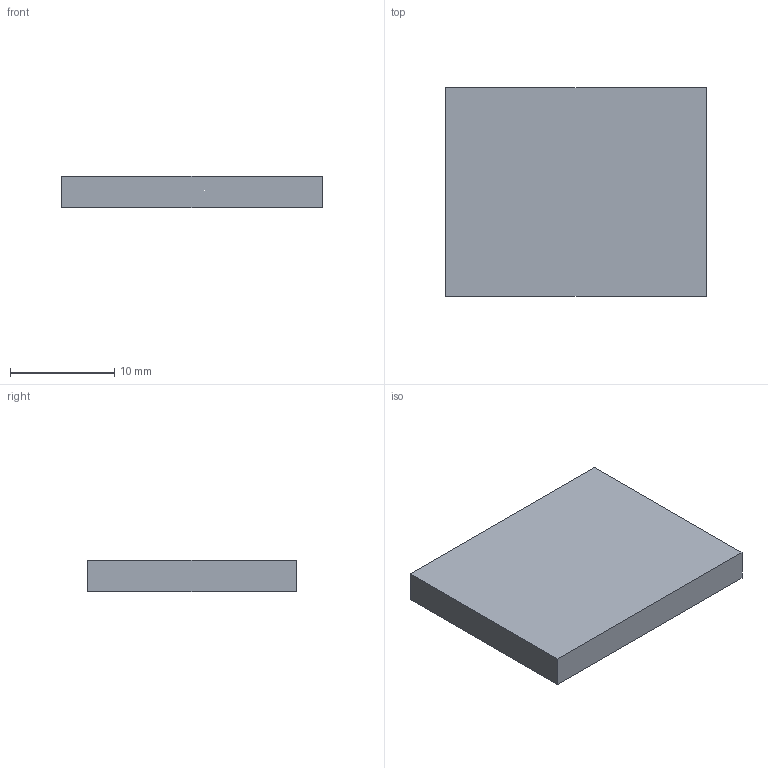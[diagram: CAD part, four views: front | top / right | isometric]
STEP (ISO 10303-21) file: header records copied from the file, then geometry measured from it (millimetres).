
FILE_DESCRIPTION(('Open CASCADE Model'),'2;1');
FILE_NAME('Open CASCADE Shape Model','2026-10-25T05:18:02',('Author'),( 'Open CASCADE'),'Open CASCADE STEP processor 7.9','Open CASCADE 7.9' ,'Unknown');
FILE_SCHEMA(('AUTOMOTIVE_DESIGN { 1 0 10303 214 1 1 1 1 }'));
Length unit declared in the file: millimetre
Products named in the file (1): Open CASCADE STEP translator 7.9 126
Bounding box: 25 x 20 x 3 mm (x, y, z)
Volume: 1500 mm3; surface area: 1270 mm2
Topology: 1 solids, 1 shells, 6 faces, 12 edges, 8 vertices
Faces by surface type: plane 6
Entity records: 322 total; most frequent: CARTESIAN_POINT 51, DIRECTION 50, LINE 36, VECTOR 36, ORIENTED_EDGE 24, PCURVE 24, DEFINITIONAL_REPRESENTATION 24, EDGE_CURVE 12
